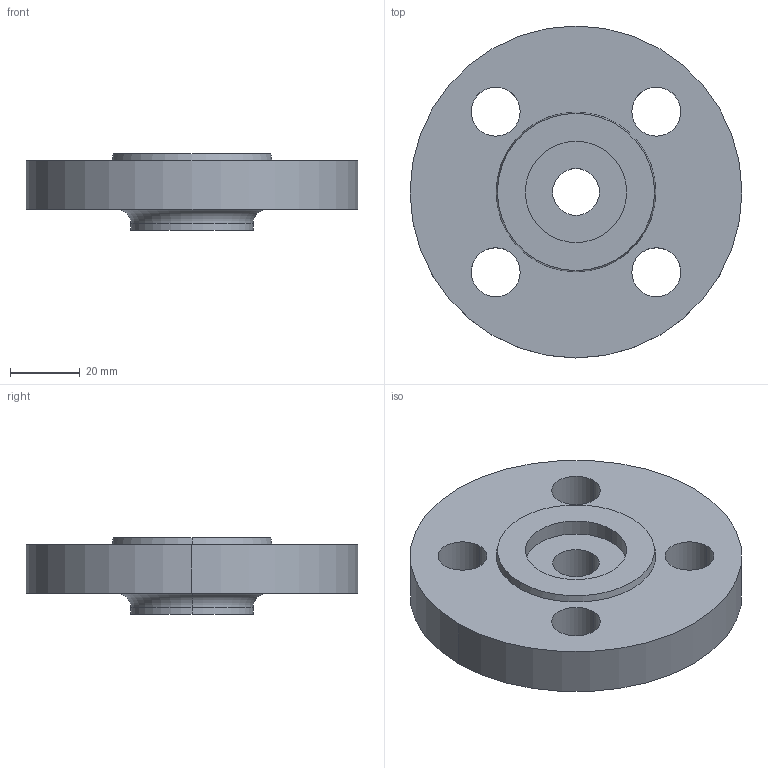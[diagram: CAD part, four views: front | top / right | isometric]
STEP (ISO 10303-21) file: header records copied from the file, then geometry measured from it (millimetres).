
FILE_DESCRIPTION (( 'STEP AP214' ), '1' );
FILE_NAME ('PN40 DN15 Type 13 - Type G Face.STEP', '2018-12-29T14:32:34', ( '' ), ( '' ), 'SwSTEP 2.0', 'SolidWorks 2019', '' );
FILE_SCHEMA (( 'AUTOMOTIVE_DESIGN' ));
Length unit declared in the file: millimetre
Products named in the file (1): PN40 DN15 Type 13 - Type G Face
Bounding box: 95 x 95 x 22 mm (x, y, z)
Volume: 94583.5 mm3; surface area: 21167.8 mm2
Topology: 1 solids, 1 shells, 25 faces, 58 edges, 38 vertices
Faces by surface type: cylinder 16, plane 5, torus 2, cone 2
Entity records: 790 total; most frequent: DIRECTION 150, CARTESIAN_POINT 122, ORIENTED_EDGE 116, AXIS2_PLACEMENT_3D 66, EDGE_CURVE 58, CIRCLE 40, VERTEX_POINT 38, EDGE_LOOP 38
